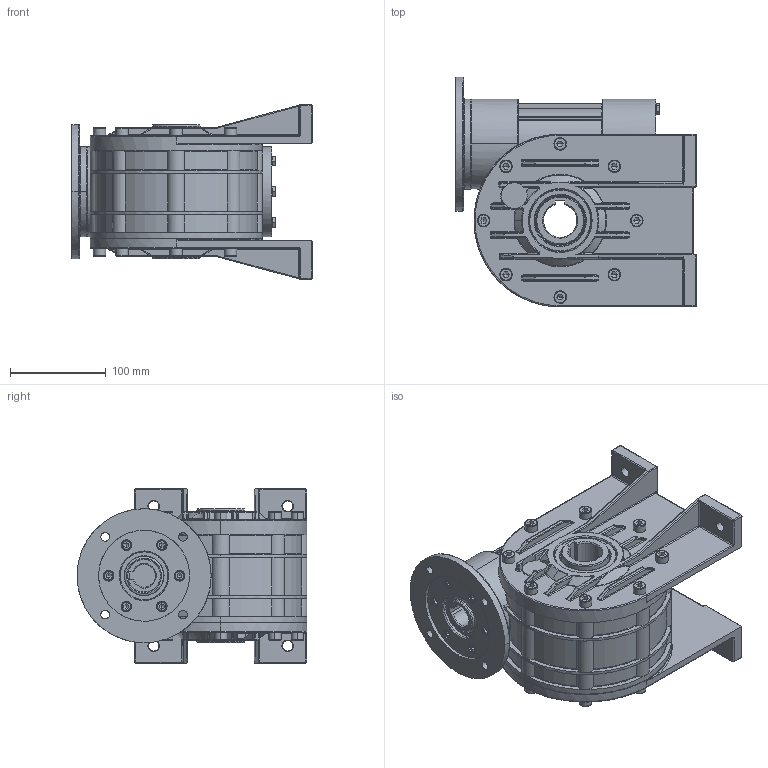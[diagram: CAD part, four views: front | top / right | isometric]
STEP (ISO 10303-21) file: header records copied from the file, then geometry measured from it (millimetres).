
FILE_DESCRIPTION (( 'STEP AP203' ), '1' );
FILE_NAME ('3F002272.STEP', '2012-07-24T05:25:23', ( 'Amministratore' ), ( 'SerteK sas' ), 'SwSTEP 2.0', 'SolidWorks 2009', '' );
FILE_SCHEMA (( 'CONFIG_CONTROL_DESIGN' ));
Length unit declared in the file: millimetre
Products named in the file (1): 3F002272
Bounding box: 251 x 240.08 x 181.8 mm (x, y, z)
Surface area: 599449 mm2 (no closed solid volume)
Topology: 0 solids, 31 shells, 3245 faces, 8422 edges, 5118 vertices
Faces by surface type: bspline 1134, cylinder 1085, plane 573, cone 453
Entity records: 235344 total; most frequent: CARTESIAN_POINT 169225, ORIENTED_EDGE 16348, DIRECTION 9768, EDGE_CURVE 8194, VERTEX_POINT 5118, B_SPLINE_CURVE_WITH_KNOTS 4159, AXIS2_PLACEMENT_3D 3834, EDGE_LOOP 3458
